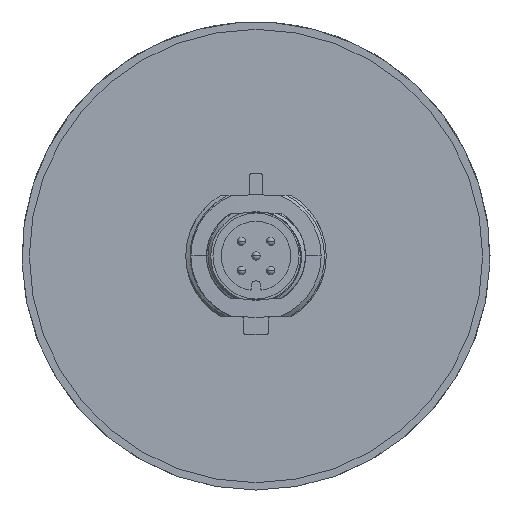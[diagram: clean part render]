
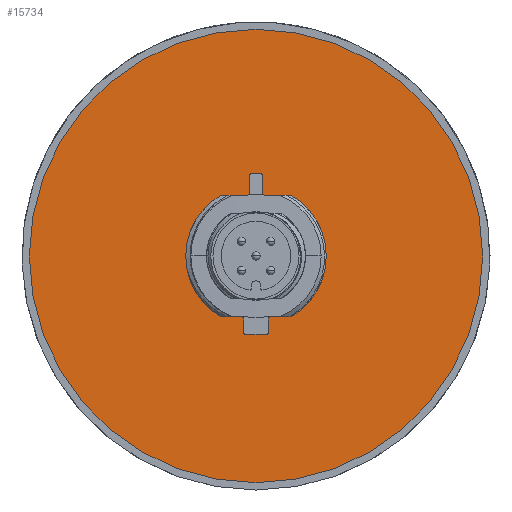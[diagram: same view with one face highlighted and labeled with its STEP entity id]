
A CAD part, front view. The second image highlights one B-rep face of the part: STEP entity #15734.
In plain terms, the highlighted planar face has unit normal (0, -1, 0).
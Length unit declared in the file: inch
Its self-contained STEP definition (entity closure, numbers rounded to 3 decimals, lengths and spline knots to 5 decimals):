
#26=DIRECTION('',(1.,0.,-0.017));
#27=VECTOR('',#26,0.12938);
#28=CARTESIAN_POINT('',(0.03943,-0.364,0.28931));
#29=LINE('',#28,#27);
#101=CARTESIAN_POINT('',(0.03943,-0.364,0.28931));
#102=CARTESIAN_POINT('',(0.03615,-0.364,0.28937));
#103=CARTESIAN_POINT('',(0.03206,-0.364,0.2919));
#104=CARTESIAN_POINT('',(0.0296,-0.364,0.29603));
#105=CARTESIAN_POINT('',(0.0296,-0.364,0.29931));
#111=DIRECTION('',(0.,0.,1.));
#112=VECTOR('',#111,0.08365);
#113=CARTESIAN_POINT('',(0.0296,-0.364,0.29931));
#114=LINE('',#113,#112);
#119=CARTESIAN_POINT('',(0.0196,-0.364,0.39296));
#120=CARTESIAN_POINT('',(0.02293,-0.364,0.39296));
#121=CARTESIAN_POINT('',(0.02707,-0.364,0.39043));
#122=CARTESIAN_POINT('',(0.0296,-0.364,0.38629));
#123=CARTESIAN_POINT('',(0.0296,-0.364,0.38296));
#133=DIRECTION('',(-1.,0.,0.));
#134=VECTOR('',#133,0.0392);
#135=CARTESIAN_POINT('',(0.0196,-0.364,0.39296));
#136=LINE('',#135,#134);
#181=DIRECTION('',(1.,0.,0.017));
#182=VECTOR('',#181,0.12938);
#183=CARTESIAN_POINT('',(-0.16879,-0.364,0.28705));
#184=LINE('',#183,#182);
#260=CARTESIAN_POINT('',(0.,-0.364,0.));
#261=DIRECTION('',(0.,1.,0.));
#262=DIRECTION('',(-0.507,0.,-0.862));
#263=AXIS2_PLACEMENT_3D('',#260,#261,#262);
#351=DIRECTION('',(-1.,0.,0.017));
#352=VECTOR('',#351,0.09938);
#353=CARTESIAN_POINT('',(-0.06943,-0.364,-0.28879));
#354=LINE('',#353,#352);
#5467=DIRECTION('',(-1.,0.,-0.017));
#5468=VECTOR('',#5467,0.09938);
#5469=CARTESIAN_POINT('',(0.16879,-0.364,-0.28705));
#5470=LINE('',#5469,#5468);
#5546=CARTESIAN_POINT('',(0.,-0.364,0.));
#5547=DIRECTION('',(0.,1.,0.));
#5548=DIRECTION('',(0.507,0.,0.862));
#5549=AXIS2_PLACEMENT_3D('',#5546,#5547,#5548);
#5555=CARTESIAN_POINT('',(0.,-0.364,0.));
#5556=DIRECTION('',(0.,1.,0.));
#5557=DIRECTION('',(1.,0.,0.));
#5558=AXIS2_PLACEMENT_3D('',#5555,#5556,#5557);
#5560=CARTESIAN_POINT('',(0.,-0.364,0.));
#5561=DIRECTION('',(0.,1.,0.));
#5562=DIRECTION('',(-1.,0.,0.));
#5563=AXIS2_PLACEMENT_3D('',#5560,#5561,#5562);
#5565=CARTESIAN_POINT('',(-0.0296,-0.364,0.38296));
#5566=CARTESIAN_POINT('',(-0.0296,-0.364,0.38629));
#5567=CARTESIAN_POINT('',(-0.02707,-0.364,0.39043));
#5568=CARTESIAN_POINT('',(-0.02293,-0.364,0.39296));
#5569=CARTESIAN_POINT('',(-0.0196,-0.364,0.39296));
#5579=DIRECTION('',(0.,0.,-1.));
#5580=VECTOR('',#5579,0.08365);
#5581=CARTESIAN_POINT('',(-0.0296,-0.364,0.38296));
#5582=LINE('',#5581,#5580);
#5583=CARTESIAN_POINT('',(-0.03943,-0.364,0.28931));
#5584=CARTESIAN_POINT('',(-0.03615,-0.364,0.28937));
#5585=CARTESIAN_POINT('',(-0.03206,-0.364,0.2919));
#5586=CARTESIAN_POINT('',(-0.0296,-0.364,0.29603));
#5587=CARTESIAN_POINT('',(-0.0296,-0.364,0.29931));
#5589=CARTESIAN_POINT('',(-0.06943,-0.364,-0.28879));
#5590=CARTESIAN_POINT('',(-0.06615,-0.364,-0.28885));
#5591=CARTESIAN_POINT('',(-0.06206,-0.364,-0.29138));
#5592=CARTESIAN_POINT('',(-0.0596,-0.364,-0.29551));
#5593=CARTESIAN_POINT('',(-0.0596,-0.364,-0.29879));
#5599=DIRECTION('',(0.,0.,-1.));
#5600=VECTOR('',#5599,0.06417);
#5601=CARTESIAN_POINT('',(-0.0596,-0.364,-0.29879));
#5602=LINE('',#5601,#5600);
#5607=CARTESIAN_POINT('',(-0.0496,-0.364,-0.37296));
#5608=CARTESIAN_POINT('',(-0.05293,-0.364,-0.37296));
#5609=CARTESIAN_POINT('',(-0.05707,-0.364,-0.37043));
#5610=CARTESIAN_POINT('',(-0.0596,-0.364,-0.36629));
#5611=CARTESIAN_POINT('',(-0.0596,-0.364,-0.36296));
#5617=DIRECTION('',(1.,0.,0.));
#5618=VECTOR('',#5617,0.0992);
#5619=CARTESIAN_POINT('',(-0.0496,-0.364,-0.37296));
#5620=LINE('',#5619,#5618);
#5625=CARTESIAN_POINT('',(0.0596,-0.364,-0.36296));
#5626=CARTESIAN_POINT('',(0.0596,-0.364,-0.36629));
#5627=CARTESIAN_POINT('',(0.05707,-0.364,-0.37043));
#5628=CARTESIAN_POINT('',(0.05293,-0.364,-0.37296));
#5629=CARTESIAN_POINT('',(0.0496,-0.364,-0.37296));
#5639=DIRECTION('',(0.,0.,1.));
#5640=VECTOR('',#5639,0.06417);
#5641=CARTESIAN_POINT('',(0.0596,-0.364,-0.36296));
#5642=LINE('',#5641,#5640);
#5687=CARTESIAN_POINT('',(0.06943,-0.364,-0.28879));
#5688=CARTESIAN_POINT('',(0.06615,-0.364,-0.28885));
#5689=CARTESIAN_POINT('',(0.06206,-0.364,-0.29138));
#5690=CARTESIAN_POINT('',(0.0596,-0.364,-0.29551));
#5691=CARTESIAN_POINT('',(0.0596,-0.364,-0.29879));
#7548=CARTESIAN_POINT('',(1.075,-0.364,0.));
#7549=CARTESIAN_POINT('',(-1.075,-0.364,0.));
#7550=VERTEX_POINT('',#7548);
#7551=VERTEX_POINT('',#7549);
#7590=CARTESIAN_POINT('',(0.0196,-0.364,0.39296));
#7591=VERTEX_POINT('',#7590);
#7592=CARTESIAN_POINT('',(-0.0196,-0.364,0.39296));
#7593=VERTEX_POINT('',#7592);
#7594=CARTESIAN_POINT('',(0.0296,-0.364,0.38296));
#7595=VERTEX_POINT('',#7594);
#7596=CARTESIAN_POINT('',(0.0296,-0.364,0.29931));
#7597=VERTEX_POINT('',#7596);
#7598=CARTESIAN_POINT('',(0.0596,-0.364,-0.36296));
#7599=VERTEX_POINT('',#7598);
#7600=CARTESIAN_POINT('',(0.0596,-0.364,-0.29879));
#7601=VERTEX_POINT('',#7600);
#7602=CARTESIAN_POINT('',(0.0496,-0.364,-0.37296));
#7603=VERTEX_POINT('',#7602);
#7604=CARTESIAN_POINT('',(-0.0496,-0.364,-0.37296));
#7605=VERTEX_POINT('',#7604);
#7606=CARTESIAN_POINT('',(-0.0596,-0.364,-0.36296));
#7607=VERTEX_POINT('',#7606);
#7608=CARTESIAN_POINT('',(-0.0596,-0.364,-0.29879));
#7609=VERTEX_POINT('',#7608);
#7610=CARTESIAN_POINT('',(-0.0296,-0.364,0.38296));
#7611=VERTEX_POINT('',#7610);
#7612=CARTESIAN_POINT('',(-0.0296,-0.364,0.29931));
#7613=VERTEX_POINT('',#7612);
#7614=CARTESIAN_POINT('',(0.03943,-0.364,0.28931));
#7615=VERTEX_POINT('',#7614);
#7616=CARTESIAN_POINT('',(0.16879,-0.364,0.28705));
#7617=VERTEX_POINT('',#7616);
#7618=CARTESIAN_POINT('',(-0.16879,-0.364,-0.28705));
#7619=VERTEX_POINT('',#7618);
#7620=CARTESIAN_POINT('',(-0.16879,-0.364,0.28705));
#7621=VERTEX_POINT('',#7620);
#7622=CARTESIAN_POINT('',(0.16879,-0.364,-0.28705));
#7623=VERTEX_POINT('',#7622);
#7624=CARTESIAN_POINT('',(-0.06943,-0.364,-0.28879));
#7625=VERTEX_POINT('',#7624);
#7626=CARTESIAN_POINT('',(0.06943,-0.364,-0.28879));
#7627=VERTEX_POINT('',#7626);
#7628=CARTESIAN_POINT('',(-0.03943,-0.364,0.28931));
#7629=VERTEX_POINT('',#7628);
#15691=CARTESIAN_POINT('',(0.,-0.364,0.));
#15692=DIRECTION('',(0.,1.,0.));
#15693=DIRECTION('',(1.,0.,0.));
#15694=AXIS2_PLACEMENT_3D('',#15691,#15692,#15693);
#15695=PLANE('',#15694);
#15697=ORIENTED_EDGE('',*,*,#15696,.T.);
#15699=ORIENTED_EDGE('',*,*,#15698,.T.);
#15700=EDGE_LOOP('',(#15697,#15699));
#15701=FACE_OUTER_BOUND('',#15700,.F.);
#15702=ORIENTED_EDGE('',*,*,#7994,.T.);
#15704=ORIENTED_EDGE('',*,*,#15703,.F.);
#15706=ORIENTED_EDGE('',*,*,#15705,.T.);
#15708=ORIENTED_EDGE('',*,*,#15707,.F.);
#15709=ORIENTED_EDGE('',*,*,#8027,.F.);
#15710=ORIENTED_EDGE('',*,*,#8129,.F.);
#15711=ORIENTED_EDGE('',*,*,#8235,.F.);
#15713=ORIENTED_EDGE('',*,*,#15712,.T.);
#15715=ORIENTED_EDGE('',*,*,#15714,.T.);
#15717=ORIENTED_EDGE('',*,*,#15716,.F.);
#15719=ORIENTED_EDGE('',*,*,#15718,.T.);
#15721=ORIENTED_EDGE('',*,*,#15720,.F.);
#15723=ORIENTED_EDGE('',*,*,#15722,.T.);
#15725=ORIENTED_EDGE('',*,*,#15724,.F.);
#15726=ORIENTED_EDGE('',*,*,#15609,.F.);
#15727=ORIENTED_EDGE('',*,*,#15681,.F.);
#15728=ORIENTED_EDGE('',*,*,#7855,.F.);
#15729=ORIENTED_EDGE('',*,*,#7946,.T.);
#15730=ORIENTED_EDGE('',*,*,#7961,.T.);
#15731=ORIENTED_EDGE('',*,*,#7976,.F.);
#15732=EDGE_LOOP('',(#15702,#15704,#15706,#15708,#15709,#15710,#15711,#15713,
#15715,#15717,#15719,#15721,#15723,#15725,#15726,#15727,#15728,#15729,#15730,
#15731));
#15733=FACE_BOUND('',#15732,.F.);
#15734=ADVANCED_FACE('',(#15701,#15733),#15695,.F.);
#106=B_SPLINE_CURVE_WITH_KNOTS('',3,(#101,#102,#103,#104,#105),.UNSPECIFIED.,
.F.,.F.,(4,1,4),(0.,0.5,1.),.UNSPECIFIED.);
#124=B_SPLINE_CURVE_WITH_KNOTS('',3,(#119,#120,#121,#122,#123),.UNSPECIFIED.,
.F.,.F.,(4,1,4),(0.,0.5,1.),.UNSPECIFIED.);
#264=CIRCLE('',#263,0.333);
#5550=CIRCLE('',#5549,0.333);
#5559=CIRCLE('',#5558,1.075);
#5564=CIRCLE('',#5563,1.075);
#5570=B_SPLINE_CURVE_WITH_KNOTS('',3,(#5565,#5566,#5567,#5568,#5569),
.UNSPECIFIED.,.F.,.F.,(4,1,4),(0.,0.5,1.),.UNSPECIFIED.);
#5588=B_SPLINE_CURVE_WITH_KNOTS('',3,(#5583,#5584,#5585,#5586,#5587),
.UNSPECIFIED.,.F.,.F.,(4,1,4),(0.,0.5,1.),.UNSPECIFIED.);
#5594=B_SPLINE_CURVE_WITH_KNOTS('',3,(#5589,#5590,#5591,#5592,#5593),
.UNSPECIFIED.,.F.,.F.,(4,1,4),(0.,0.5,1.),.UNSPECIFIED.);
#5612=B_SPLINE_CURVE_WITH_KNOTS('',3,(#5607,#5608,#5609,#5610,#5611),
.UNSPECIFIED.,.F.,.F.,(4,1,4),(0.,0.5,1.),.UNSPECIFIED.);
#5630=B_SPLINE_CURVE_WITH_KNOTS('',3,(#5625,#5626,#5627,#5628,#5629),
.UNSPECIFIED.,.F.,.F.,(4,1,4),(0.,0.5,1.),.UNSPECIFIED.);
#5692=B_SPLINE_CURVE_WITH_KNOTS('',3,(#5687,#5688,#5689,#5690,#5691),
.UNSPECIFIED.,.F.,.F.,(4,1,4),(0.,0.5,1.),.UNSPECIFIED.);
#7855=EDGE_CURVE('',#7615,#7617,#29,.T.);
#7946=EDGE_CURVE('',#7615,#7597,#106,.T.);
#7961=EDGE_CURVE('',#7597,#7595,#114,.T.);
#7976=EDGE_CURVE('',#7591,#7595,#124,.T.);
#7994=EDGE_CURVE('',#7591,#7593,#136,.T.);
#8027=EDGE_CURVE('',#7621,#7629,#184,.T.);
#8129=EDGE_CURVE('',#7619,#7621,#264,.T.);
#8235=EDGE_CURVE('',#7625,#7619,#354,.T.);
#15609=EDGE_CURVE('',#7623,#7627,#5470,.T.);
#15681=EDGE_CURVE('',#7617,#7623,#5550,.T.);
#15696=EDGE_CURVE('',#7550,#7551,#5559,.T.);
#15698=EDGE_CURVE('',#7551,#7550,#5564,.T.);
#15703=EDGE_CURVE('',#7611,#7593,#5570,.T.);
#15705=EDGE_CURVE('',#7611,#7613,#5582,.T.);
#15707=EDGE_CURVE('',#7629,#7613,#5588,.T.);
#15712=EDGE_CURVE('',#7625,#7609,#5594,.T.);
#15714=EDGE_CURVE('',#7609,#7607,#5602,.T.);
#15716=EDGE_CURVE('',#7605,#7607,#5612,.T.);
#15718=EDGE_CURVE('',#7605,#7603,#5620,.T.);
#15720=EDGE_CURVE('',#7599,#7603,#5630,.T.);
#15722=EDGE_CURVE('',#7599,#7601,#5642,.T.);
#15724=EDGE_CURVE('',#7627,#7601,#5692,.T.);
